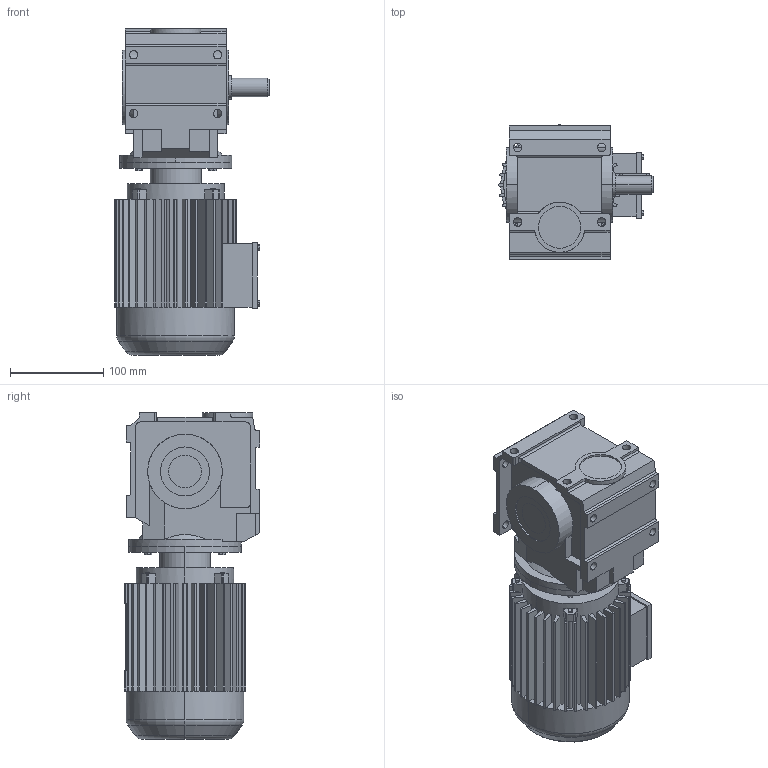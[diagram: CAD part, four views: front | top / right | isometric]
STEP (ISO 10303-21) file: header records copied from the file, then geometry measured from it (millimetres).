
FILE_DESCRIPTION(('Open CASCADE Model'),'2;1');
FILE_NAME('Open CASCADE Shape Model','2018-07-13T11:00:30',('Author'),( 'Open CASCADE'),'Open CASCADE STEP processor 6.3','Open CASCADE 6.3' ,'Unknown');
FILE_SCHEMA(('AUTOMOTIVE_DESIGN_CC2 { 1 2 10303 214 -1 1 5 4 }'));
Length unit declared in the file: millimetre
Products named in the file (4): 271_S37-Y63S-A; S37_37.step; 萇儂_120_Y63S.step; す瑩妗陑粣S_37_S.step
Assembly tree (3 placements, depth 2):
  271_S37-Y63S-A
    S37_37.step
    萇儂_120_Y63S.step
    す瑩妗陑粣S_37_S.step
Bounding box: 165 x 145 x 350 mm (x, y, z)
Volume: 3922399.6 mm3; surface area: 371452.8 mm2
Topology: 3 solids, 3 shells, 629 faces, 1661 edges, 1068 vertices
Faces by surface type: plane 423, cylinder 190, cone 12, torus 4
Entity records: 42670 total; most frequent: CARTESIAN_POINT 11240, DIRECTION 5424, ORIENTED_EDGE 3318, PCURVE 3318, DEFINITIONAL_REPRESENTATION 3318, LINE 2836, VECTOR 2836, EDGE_CURVE 1659
